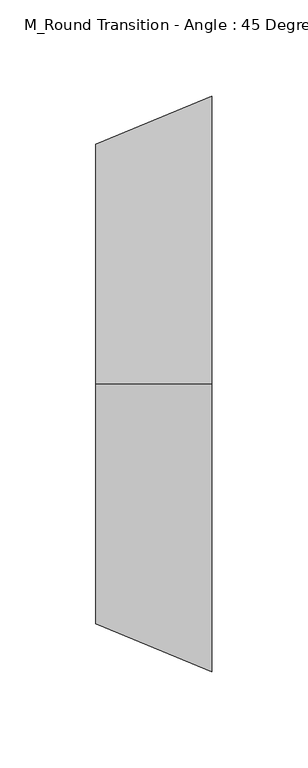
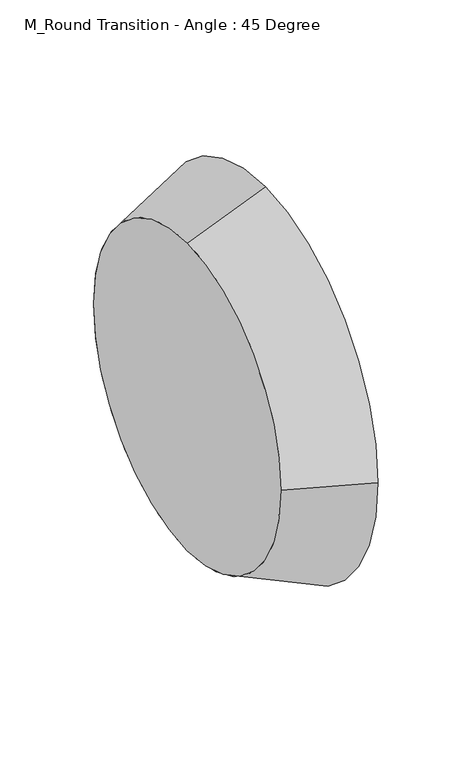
"""IFC4 building model written with IfcOpenShell, lengths in millimetres: duct fitting geometry, M_Round Transition - Angle : 45 Degree."""

from ifc_helpers import new_model, si_unit, frame, origin, place, context, project, spatial, polyline, circle_curve, source, transform, mapped, element, save
from ifc_brep_helpers import plane_surface, revolved_surface, advanced_brep


def m_round_transition_angle_45_degree_f2146b13(model_context):
    return source(origin(), model_context, "Body", "AdvancedBrep", [
        advanced_brep(
        [(60.3553391, -150.0, 0.0), (60.3553391, 0.0, -150.0), (60.3553391, 150.0, 0.0), (60.3553391, 0.0, 150.0), (0.0, -125.0, 0.0), (0.0, 0.0, 125.0), (0.0, 125.0, 0.0), (0.0, 0.0, -125.0)],
        [
            (0, 1, circle_curve(frame((60.3553391, 0.0, 0.0), z_axis=(1.0, 0.0, 0.0), x_axis=(0.0, -1.0, 0.0)), 150.0)),
            (1, 2, circle_curve(frame((60.3553391, 0.0, 0.0), z_axis=(1.0, 0.0, 0.0), x_axis=(0.0, 0.0, -1.0)), 150.0)),
            (2, 3, circle_curve(frame((60.3553391, 0.0, 0.0), z_axis=(1.0, 0.0, 0.0), x_axis=(0.0, 1.0, 0.0)), 150.0)),
            (3, 0, circle_curve(frame((60.3553391, 0.0, 0.0), z_axis=(1.0, 0.0, 0.0), x_axis=(0.0, 0.0, 1.0)), 150.0)),
            (4, 5, circle_curve(frame((0.0, 0.0, 0.0), z_axis=(-1.0, 0.0, 0.0), x_axis=(0.0, 0.0, 1.0)), 125.0)),
            (5, 6, circle_curve(frame((0.0, 0.0, 0.0), z_axis=(-1.0, 0.0, 0.0), x_axis=(0.0, 1.0, 0.0)), 125.0)),
            (6, 7, circle_curve(frame((0.0, 0.0, 0.0), z_axis=(-1.0, 0.0, 0.0), x_axis=(0.0, 0.0, -1.0)), 125.0)),
            (7, 4, circle_curve(frame((0.0, 0.0, 0.0), z_axis=(-1.0, 0.0, 0.0), x_axis=(0.0, -1.0, 0.0)), 125.0)),
            (7, 1),
            (0, 4),
            (6, 2),
            (5, 3),
        ],
        [
            plane_surface(frame((60.3553391, 0.0, 0.0), z_axis=(1.0, 0.0, 0.0), x_axis=(0.0, 0.0, -1.0))),
            plane_surface(frame((0.0, 0.0, 0.0), z_axis=(-1.0, 0.0, 0.0), x_axis=(0.0, 0.0, -1.0))),
            revolved_surface(polyline([(0.0, 0.0, -124.99999998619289), (60.35533909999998, 0.0, -150.0)]), (-301.7766953, 0.0, 0.0), (1.0, 0.0, 0.0)),
            revolved_surface(polyline([(0.0, 124.99999998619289, 0.0), (60.35533909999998, 150.0, 0.0)]), (-301.7766953, 0.0, 0.0), (1.0, 0.0, 0.0)),
            revolved_surface(polyline([(0.0, 0.0, 124.99999998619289), (60.35533909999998, 0.0, 150.0)]), (-301.7766953, 0.0, 0.0), (1.0, 0.0, 0.0)),
            revolved_surface(polyline([(0.0, -124.99999998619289, 0.0), (60.35533909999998, -150.0, 0.0)]), (-301.7766953, 0.0, 0.0), (1.0, 0.0, 0.0)),
        ],
        [
            (0, [[1, 2, 3, 4]]),
            (1, [[5, 6, 7, 8]]),
            (2, [[-8, 9, -1, 10]]),
            (3, [[-7, 11, -2, -9]]),
            (4, [[-6, 12, -3, -11]]),
            (5, [[-5, -10, -4, -12]]),
        ],
    ),
        advanced_brep(
        [(0.0, -125.0, 0.0), (0.0, 0.0, 125.0), (0.0, 125.0, 0.0), (0.0, 0.0, -125.0), (60.3553391, -150.0, 0.0), (60.3553391, 0.0, -150.0), (60.3553391, 150.0, 0.0), (60.3553391, 0.0, 150.0)],
        [
            (0, 1, circle_curve(frame((0.0, 0.0, 0.0), z_axis=(-1.0, 0.0, 0.0), x_axis=(0.0, -1.0, 0.0)), 125.0)),
            (1, 2, circle_curve(frame((0.0, 0.0, 0.0), z_axis=(-1.0, 0.0, 0.0), x_axis=(0.0, 0.0, 1.0)), 125.0)),
            (2, 3, circle_curve(frame((0.0, 0.0, 0.0), z_axis=(-1.0, 0.0, 0.0), x_axis=(0.0, 1.0, 0.0)), 125.0)),
            (3, 0, circle_curve(frame((0.0, 0.0, 0.0), z_axis=(-1.0, 0.0, 0.0), x_axis=(0.0, 0.0, -1.0)), 125.0)),
            (4, 5, circle_curve(frame((60.3553391, 0.0, 0.0), z_axis=(1.0, 0.0, 0.0), x_axis=(0.0, 0.0, -1.0)), 150.0)),
            (5, 6, circle_curve(frame((60.3553391, 0.0, 0.0), z_axis=(1.0, 0.0, 0.0), x_axis=(0.0, 1.0, 0.0)), 150.0)),
            (6, 7, circle_curve(frame((60.3553391, 0.0, 0.0), z_axis=(1.0, 0.0, 0.0), x_axis=(0.0, 0.0, 1.0)), 150.0)),
            (7, 4, circle_curve(frame((60.3553391, 0.0, 0.0), z_axis=(1.0, 0.0, 0.0), x_axis=(0.0, -1.0, 0.0)), 150.0)),
            (7, 1),
            (0, 4),
            (6, 2),
            (5, 3),
        ],
        [
            plane_surface(frame((0.0, 0.0, 0.0), z_axis=(-1.0, 0.0, 0.0), x_axis=(0.0, 0.0, -1.0))),
            plane_surface(frame((60.3553391, 0.0, 0.0), z_axis=(1.0, 0.0, 0.0), x_axis=(0.0, 0.0, -1.0))),
            revolved_surface(polyline([(0.0, -124.99999998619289, 0.0), (60.35533909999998, -150.0, 0.0)]), (-301.7766953, 0.0, 0.0), (1.0, 0.0, 0.0)),
            revolved_surface(polyline([(0.0, 0.0, 124.99999998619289), (60.35533909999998, 0.0, 150.0)]), (-301.7766953, 0.0, 0.0), (1.0, 0.0, 0.0)),
            revolved_surface(polyline([(0.0, 124.99999998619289, 0.0), (60.35533909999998, 150.0, 0.0)]), (-301.7766953, 0.0, 0.0), (1.0, 0.0, 0.0)),
            revolved_surface(polyline([(0.0, 0.0, -124.99999998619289), (60.35533909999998, 0.0, -150.0)]), (-301.7766953, 0.0, 0.0), (1.0, 0.0, 0.0)),
        ],
        [
            (0, [[1, 2, 3, 4]]),
            (1, [[5, 6, 7, 8]]),
            (2, [[-8, 9, -1, 10]]),
            (3, [[-7, 11, -2, -9]]),
            (4, [[-6, 12, -3, -11]]),
            (5, [[-5, -10, -4, -12]]),
        ],
    ),
        advanced_brep(
        [(60.3553391, -150.0, 0.0), (60.3553391, 150.0, 0.0), (0.0, -125.0, 0.0), (0.0, 125.0, 0.0)],
        [
            (0, 1, circle_curve(frame((60.3553391, 0.0, 0.0), z_axis=(1.0, 0.0, 0.0), x_axis=(0.0, -1.0, 0.0)), 150.0)),
            (1, 0, circle_curve(frame((60.3553391, 0.0, 0.0), z_axis=(1.0, 0.0, 0.0), x_axis=(0.0, 1.0, 0.0)), 150.0)),
            (2, 3, circle_curve(frame((0.0, 0.0, 0.0), z_axis=(-1.0, 0.0, 0.0), x_axis=(0.0, 1.0, 0.0)), 125.0)),
            (3, 2, circle_curve(frame((0.0, 0.0, 0.0), z_axis=(-1.0, 0.0, 0.0), x_axis=(0.0, -1.0, 0.0)), 125.0)),
            (3, 1),
            (0, 2),
        ],
        [
            plane_surface(frame((60.3553391, 0.0, 0.0), z_axis=(1.0, 0.0, 0.0), x_axis=(0.0, 0.0, -1.0))),
            plane_surface(frame((0.0, 0.0, 0.0), z_axis=(-1.0, 0.0, 0.0), x_axis=(0.0, 0.0, -1.0))),
            revolved_surface(polyline([(0.0, 124.99999998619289, 0.0), (60.35533909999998, 150.0, 0.0)]), (-301.7766953, 0.0, 0.0), (1.0, 0.0, 0.0)),
            revolved_surface(polyline([(0.0, -124.99999998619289, 0.0), (60.35533909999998, -150.0, 0.0)]), (-301.7766953, 0.0, 0.0), (1.0, 0.0, 0.0)),
        ],
        [
            (0, [[1, 2]]),
            (1, [[3, 4]]),
            (2, [[-4, 5, -1, 6]]),
            (3, [[-3, -6, -2, -5]]),
        ],
    ),
    ])


if __name__ == "__main__":
    model = new_model("IFC4")
    model_context = context("Model", 3, world=origin())
    ifc_project = project(units=[si_unit("LENGTHUNIT", "METRE", prefix="MILLI")], contexts=[model_context])
    site = spatial("IfcSite", under=ifc_project)
    building = spatial("IfcBuilding", under=site)
    placement = place(None, origin())
    m_round_transition_angle_45_degree_shape = m_round_transition_angle_45_degree_f2146b13(model_context)
    element("IfcDuctFitting", 1, ObjectType="M_Round Transition - Angle : 45 Degree", at=placement, inside=building, context=model_context, shape_type="MappedRepresentation", body=[
        mapped(m_round_transition_angle_45_degree_shape, transform((0.0, 0.0, 0.0), x_axis=(1.0, 0.0, 0.0), y_axis=(0.0, 1.0, 0.0), z_axis=(0.0, 0.0, 1.0))),
    ])
    save(model, "model.ifc")
